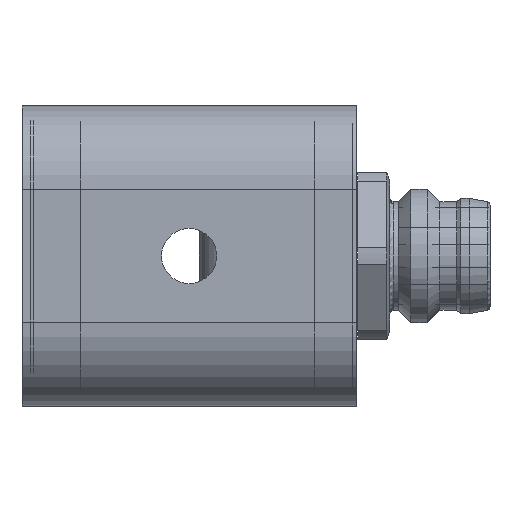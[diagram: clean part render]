
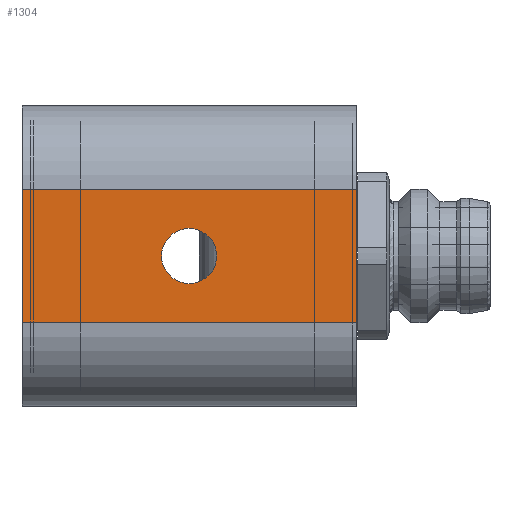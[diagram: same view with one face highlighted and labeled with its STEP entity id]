
A CAD part, left-side view. The second image highlights one B-rep face of the part: STEP entity #1304.
In plain terms, the highlighted planar face has unit normal (-1, 0, 0).
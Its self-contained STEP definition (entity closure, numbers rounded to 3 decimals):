
#59 = VERTEX_POINT ( 'NONE', #1308 ) ;
#144 = EDGE_CURVE ( 'NONE', #4394, #4146, #1431, .T. ) ;
#279 = FACE_BOUND ( 'NONE', #2642, .T. ) ;
#290 = VECTOR ( 'NONE', #2098, 1000. ) ;
#307 = ORIENTED_EDGE ( 'NONE', *, *, #1361, .F. ) ;
#346 = CARTESIAN_POINT ( 'NONE',  ( -255., 18.3, -4. ) ) ;
#357 = ORIENTED_EDGE ( 'NONE', *, *, #4096, .F. ) ;
#474 = CARTESIAN_POINT ( 'NONE',  ( -255., 8.3, 1.65 ) ) ;
#618 = ORIENTED_EDGE ( 'NONE', *, *, #1416, .T. ) ;
#627 = CARTESIAN_POINT ( 'NONE',  ( -255., 8.3, 0. ) ) ;
#777 = AXIS2_PLACEMENT_3D ( 'NONE', #627, #2356, #1341 ) ;
#885 = CARTESIAN_POINT ( 'NONE',  ( -255., -1.7, -4. ) ) ;
#934 = DIRECTION ( 'NONE',  ( 0., 0., -1. ) ) ;
#946 = DIRECTION ( 'NONE',  ( 0., 0., -1. ) ) ;
#1105 = EDGE_CURVE ( 'NONE', #4394, #59, #2720, .T. ) ;
#1152 = CARTESIAN_POINT ( 'NONE',  ( -255., 18.3, -4. ) ) ;
#1281 = VERTEX_POINT ( 'NONE', #1867 ) ;
#1304 = ADVANCED_FACE ( 'NONE', ( #279, #3682 ), #2956, .F. ) ;
#1308 = CARTESIAN_POINT ( 'NONE',  ( -255., 18.3, 4. ) ) ;
#1311 = VECTOR ( 'NONE', #4198, 1000. ) ;
#1341 = DIRECTION ( 'NONE',  ( 0., 0., 1. ) ) ;
#1361 = EDGE_CURVE ( 'NONE', #1281, #4146, #4100, .T. ) ;
#1416 = EDGE_CURVE ( 'NONE', #1281, #59, #1465, .T. ) ;
#1431 = LINE ( 'NONE', #346, #290 ) ;
#1440 = CIRCLE ( 'NONE', #777, 1.65 ) ;
#1465 = LINE ( 'NONE', #2992, #3164 ) ;
#1652 = DIRECTION ( 'NONE',  ( 0., 1., 0. ) ) ;
#1867 = CARTESIAN_POINT ( 'NONE',  ( -255., -1.7, 4. ) ) ;
#2098 = DIRECTION ( 'NONE',  ( 0., -1., 0. ) ) ;
#2206 = VECTOR ( 'NONE', #934, 1000. ) ;
#2356 = DIRECTION ( 'NONE',  ( -1., 0., 0. ) ) ;
#2590 = CARTESIAN_POINT ( 'NONE',  ( -255., 18.3, 9. ) ) ;
#2642 = EDGE_LOOP ( 'NONE', ( #357 ) ) ;
#2720 = LINE ( 'NONE', #3246, #1311 ) ;
#2956 = PLANE ( 'NONE',  #4384 ) ;
#2965 = ORIENTED_EDGE ( 'NONE', *, *, #144, .T. ) ;
#2992 = CARTESIAN_POINT ( 'NONE',  ( -255., 18.3, 4. ) ) ;
#3007 = CARTESIAN_POINT ( 'NONE',  ( -255., -1.7, -4. ) ) ;
#3164 = VECTOR ( 'NONE', #1652, 1000. ) ;
#3246 = CARTESIAN_POINT ( 'NONE',  ( -255., 18.3, 9. ) ) ;
#3593 = DIRECTION ( 'NONE',  ( 1., 0., 0. ) ) ;
#3682 = FACE_OUTER_BOUND ( 'NONE', #4135, .T. ) ;
#3692 = VERTEX_POINT ( 'NONE', #474 ) ;
#3942 = ORIENTED_EDGE ( 'NONE', *, *, #1105, .F. ) ;
#4096 = EDGE_CURVE ( 'NONE', #3692, #3692, #1440, .T. ) ;
#4100 = LINE ( 'NONE', #885, #2206 ) ;
#4135 = EDGE_LOOP ( 'NONE', ( #3942, #2965, #307, #618 ) ) ;
#4146 = VERTEX_POINT ( 'NONE', #3007 ) ;
#4198 = DIRECTION ( 'NONE',  ( 0., 0., 1. ) ) ;
#4384 = AXIS2_PLACEMENT_3D ( 'NONE', #2590, #3593, #946 ) ;
#4394 = VERTEX_POINT ( 'NONE', #1152 ) ;
